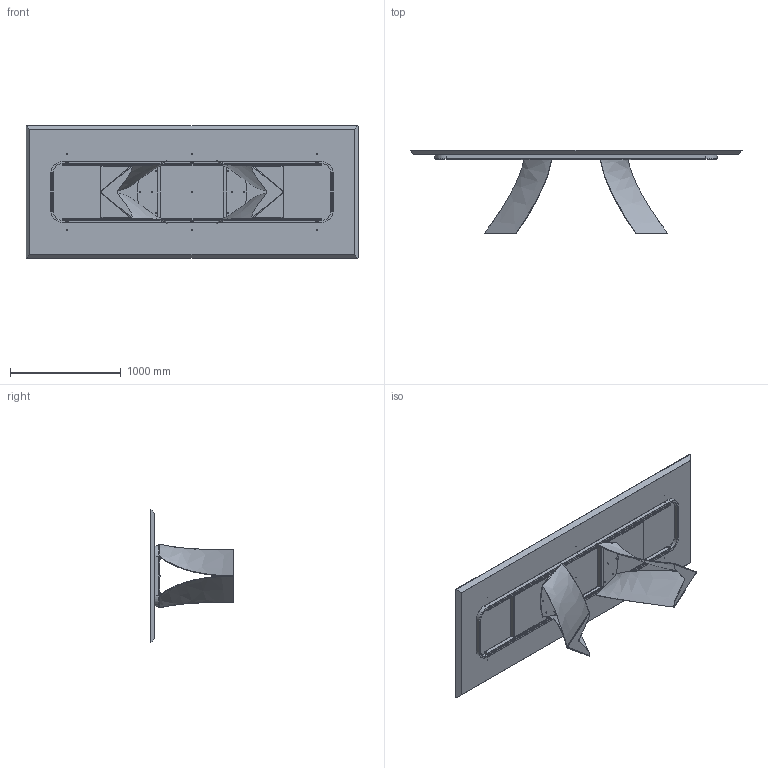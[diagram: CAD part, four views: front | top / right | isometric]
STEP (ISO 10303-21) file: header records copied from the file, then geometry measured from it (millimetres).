
FILE_DESCRIPTION (( 'STEP AP203' ), '1' );
FILE_NAME ('TW24W.STEP', '2024-08-07T12:28:44', ( '' ), ( '' ), 'SwSTEP 2.0', 'SolidWorks 2022', '' );
FILE_SCHEMA (( 'CONFIG_CONTROL_DESIGN' ));
Length unit declared in the file: millimetre
Products named in the file (10): TW24W; rondella M8_8X16; TTAV10-00-TELAIO X TAVOLO TWIST 300 320cm; M8xXXmm_M8x20mm; TTAX03_01-00-TELAIO UNIVERSALE X TWIST 300 320cm_Default<A macchina>; TWS000000BAS-00-TWIST BASE GREZZA; PIEDINO PLASTICA PER TWIST; W2XCMXX-00-Piani Rettangolari in legno_3000 x 1200; M8xXXmm_M8x55mm; TTAX03_02-00-VASSOIO IRRIGIDIMENTO TELAIO TWIST 300
Assembly tree (47 placements, depth 3):
  TW24W
    W2XCMXX-00-Piani Rettangolari in legno_3000 x 1200
    TWS000000BAS-00-TWIST BASE GREZZA  x2
    TTAV10-00-TELAIO X TAVOLO TWIST 300 320cm
      TTAX03_01-00-TELAIO UNIVERSALE X TWIST 300 320cm_Default<A macchina>
      TTAX03_02-00-VASSOIO IRRIGIDIMENTO TELAIO TWIST 300  x2
    M8xXXmm_M8x55mm  x6
    rondella M8_8X16  x18
    M8xXXmm_M8x20mm  x12
    PIEDINO PLASTICA PER TWIST  x4
Bounding box: 3000 x 753.37 x 1200 mm (x, y, z)
Volume: 145235911.5 mm3; surface area: 13421269.3 mm2
Topology: 63 solids, 63 shells, 1540 faces, 3600 edges, 2153 vertices
Faces by surface type: plane 590, cylinder 400, torus 248, cone 236, bspline 66
Entity records: 25759 total; most frequent: CARTESIAN_POINT 9504, DIRECTION 3048, ORIENTED_EDGE 2870, EDGE_CURVE 1435, AXIS2_PLACEMENT_3D 1153, VERTEX_POINT 922, VECTOR 742, LINE 742
